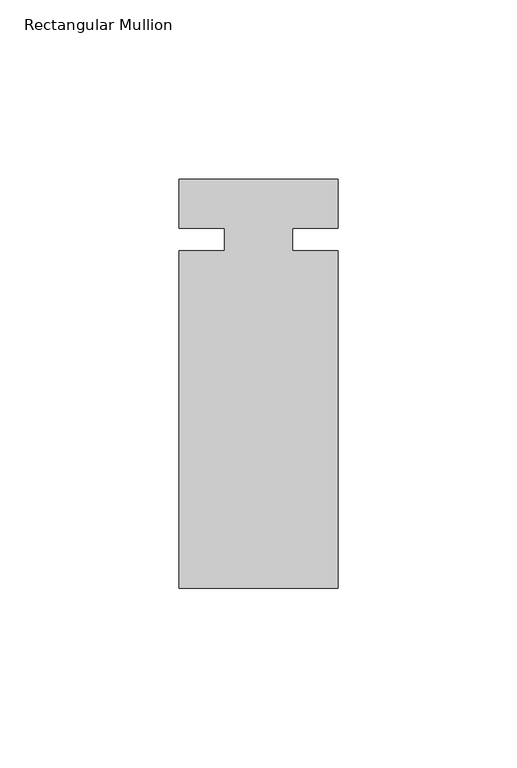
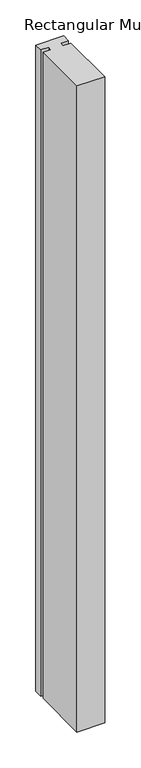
"""IFC4 building model written with IfcOpenShell, lengths in millimetres: member geometry, Rectangular Mullion : Kawneer-TRIFAB_VG_450_BACK_SB_Vertical."""

from ifc_helpers import new_model, si_unit, frame, origin, place, context, project, spatial, polyline, outline, extrude, source, transform, mapped, element, save


def rectangular_mullion_af807cf6(model_context):
    return source(origin(), model_context, "Body", "SweptSolid", [
        extrude(outline(polyline([(22.225, 16.8532346), (22.225, 3.175), (9.5232296, 3.175), (9.5232296, -3.175), (22.225, -3.175), (22.225, -97.4467654), (-22.225, -97.4467654), (-22.225, -3.175), (-9.525, -3.175), (-9.525, 3.175), (-22.225, 3.175), (-22.225, 16.8532346), (22.225, 16.8532346)])), frame((0.0, 0.0, -1098.55), z_axis=(0.0, 0.0, 1.0), x_axis=(1.0, 0.0, 0.0)), (0.0, 0.0, 1.0), 1098.55),
    ])


if __name__ == "__main__":
    model = new_model("IFC4")
    model_context = context("Model", 3, world=origin())
    ifc_project = project(units=[si_unit("LENGTHUNIT", "METRE", prefix="MILLI")], contexts=[model_context])
    site = spatial("IfcSite", under=ifc_project)
    building = spatial("IfcBuilding", under=site)
    placement = place(None, origin())
    rectangular_mullion_shape = rectangular_mullion_af807cf6(model_context)
    element("IfcMember", 1, ObjectType="Rectangular Mullion : Kawneer-TRIFAB_VG_450_BACK_SB_Vertical", at=placement, inside=building, context=model_context, shape_type="MappedRepresentation", body=[
        mapped(rectangular_mullion_shape, transform((0.0, 0.0, 0.0), x_axis=(1.0, 0.0, 0.0), y_axis=(0.0, 1.0, 0.0), z_axis=(0.0, 0.0, 1.0))),
    ])
    save(model, "model.ifc")
